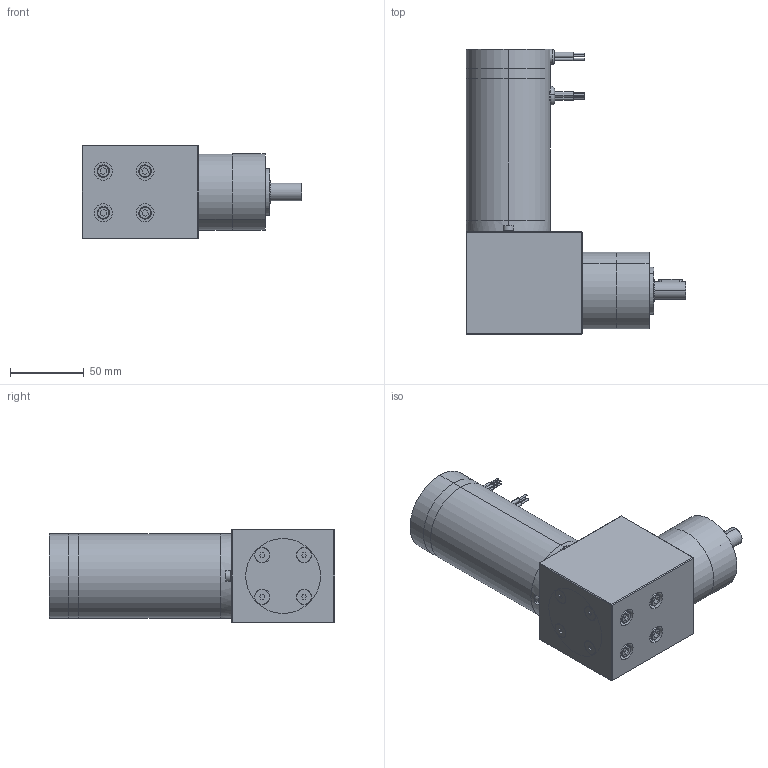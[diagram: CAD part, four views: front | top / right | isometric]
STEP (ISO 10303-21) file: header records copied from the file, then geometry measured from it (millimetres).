
FILE_DESCRIPTION (( 'STEP AP203' ), '1' );
FILE_NAME ('bl58487gra1.step', '2018-12-07T19:03:24', ( '' ), ( '' ), 'SwSTEP 2.0', 'SolidWorks 2017', '' );
FILE_SCHEMA (( 'CONFIG_CONTROL_DESIGN' ));
Length unit declared in the file: inch
Products named in the file (1): bl58487gra1
Bounding box: 149.17 x 193.47 x 63.5 mm (x, y, z)
Volume: 760346.1 mm3; surface area: 123099 mm2
Topology: 30 solids, 30 shells, 610 faces, 1316 edges, 822 vertices
Faces by surface type: plane 266, cylinder 236, cone 103, torus 5
Entity records: 16699 total; most frequent: DIRECTION 3066, CARTESIAN_POINT 2927, ORIENTED_EDGE 2584, EDGE_CURVE 1292, AXIS2_PLACEMENT_3D 1175, VERTEX_POINT 822, EDGE_LOOP 732, LINE 716
